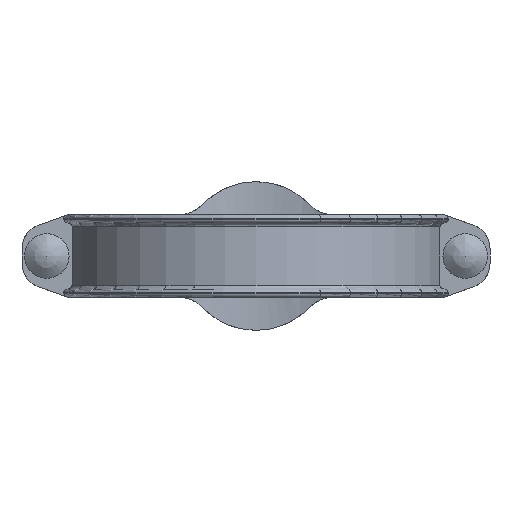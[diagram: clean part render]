
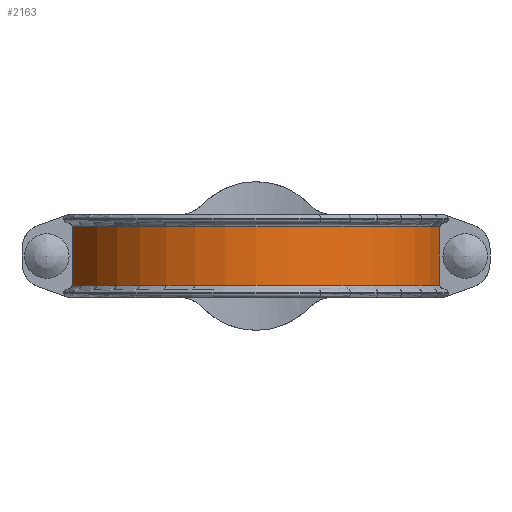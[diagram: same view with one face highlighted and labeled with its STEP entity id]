
A CAD part, front view. The second image highlights one B-rep face of the part: STEP entity #2163.
In plain terms, the highlighted cylindrical face has radius 146.177 mm (diameter 292.354 mm), a partial arc.
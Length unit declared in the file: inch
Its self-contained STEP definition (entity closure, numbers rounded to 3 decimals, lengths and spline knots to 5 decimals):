
#119=CYLINDRICAL_SURFACE('',#2374,5.755);
#208=CIRCLE('',#2373,5.755);
#209=CIRCLE('',#2375,5.755);
#296=FACE_OUTER_BOUND('',#414,.T.);
#414=EDGE_LOOP('',(#1775,#1776,#1777,#1778));
#624=LINE('',#4386,#780);
#625=LINE('',#4389,#781);
#780=VECTOR('',#2891,0.3937);
#781=VECTOR('',#2894,0.3937);
#986=VERTEX_POINT('',#4361);
#987=VERTEX_POINT('',#4372);
#988=VERTEX_POINT('',#4385);
#989=VERTEX_POINT('',#4387);
#1270=EDGE_CURVE('',#986,#987,#208,.T.);
#1272=EDGE_CURVE('',#988,#986,#624,.T.);
#1273=EDGE_CURVE('',#988,#989,#209,.T.);
#1274=EDGE_CURVE('',#987,#989,#625,.T.);
#1775=ORIENTED_EDGE('',*,*,#1272,.F.);
#1776=ORIENTED_EDGE('',*,*,#1273,.T.);
#1777=ORIENTED_EDGE('',*,*,#1274,.F.);
#1778=ORIENTED_EDGE('',*,*,#1270,.F.);
#2163=ADVANCED_FACE('',(#296),#119,.T.);
#2373=AXIS2_PLACEMENT_3D('',#4373,#2887,#2888);
#2374=AXIS2_PLACEMENT_3D('',#4384,#2889,#2890);
#2375=AXIS2_PLACEMENT_3D('',#4388,#2892,#2893);
#2887=DIRECTION('center_axis',(0.,0.,1.));
#2888=DIRECTION('ref_axis',(-1.,0.,0.));
#2889=DIRECTION('center_axis',(0.,0.,1.));
#2890=DIRECTION('ref_axis',(-1.,0.,0.));
#2891=DIRECTION('',(0.,0.,1.));
#2892=DIRECTION('center_axis',(0.,0.,1.));
#2893=DIRECTION('ref_axis',(-1.,0.,0.));
#2894=DIRECTION('',(0.,0.,-1.));
#4361=CARTESIAN_POINT('',(-5.57141,-1.442,0.88));
#4372=CARTESIAN_POINT('',(5.57141,-1.442,0.88));
#4373=CARTESIAN_POINT('Origin',(0.,0.,
0.88));
#4384=CARTESIAN_POINT('Origin',(0.,0.,0.));
#4385=CARTESIAN_POINT('',(-5.57141,-1.442,-0.88));
#4386=CARTESIAN_POINT('',(-5.57141,-1.442,0.));
#4387=CARTESIAN_POINT('',(5.57141,-1.442,-0.88));
#4388=CARTESIAN_POINT('Origin',(0.,0.,
-0.88));
#4389=CARTESIAN_POINT('',(5.57141,-1.442,0.));
